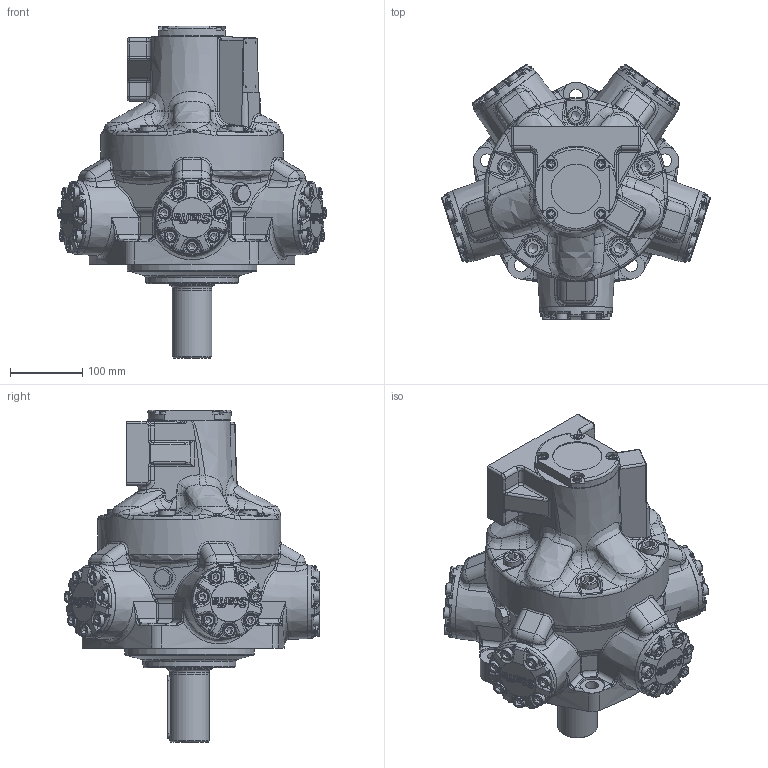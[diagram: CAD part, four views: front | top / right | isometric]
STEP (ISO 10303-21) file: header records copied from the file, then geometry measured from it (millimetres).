
FILE_DESCRIPTION(/* description */ (''),/* implementation_level */ '2;1');
FILE_NAME(/* name */ 'HMB030_P_SFM3.stp',/* time_stamp */ '2024-08-08T16:05:04+01:00',/* author */ ('ccallanga'),/* organization */ (''),/* preprocessor_version */ 'ST-DEVELOPER v20',/* originating_system */ 'Autodesk Inventor 2024',/* authorisation */ '');
FILE_SCHEMA (('AUTOMOTIVE_DESIGN { 1 0 10303 214 3 1 1 }'));
Products named in the file (1): HMB030 Web Assembly_Simplify_1
Bounding box: 373.48 x 355.32 x 460.99 mm (x, y, z)
Volume: 15314660.4 mm3; surface area: 553527 mm2
Topology: 1 solids, 1 shells, 4260 faces, 10242 edges, 5994 vertices
Faces by surface type: bspline 1848, plane 978, cylinder 834, torus 328, cone 157, sphere 115
Full cylindrical faces by diameter (mm): 2.2 x4, 8.376 x2, 9.4 x1, 10.25 x8, 11.328 x1, 11.913 x4, 12 x1, 12.7 x4, 13.614 x1, 16 x40, 16.5 x35, 17 x5, 17.78 x1, 18 x5, 23.8 x2, 23.825 x5, 25.4 x5, 31.75 x3, 32 x2, 54.996 x1, 63.474 x1, 67.564 x1, 68.58 x1, 179.934 x1, 228.613 x1, 254 x1
Entity records: 193315 total; most frequent: CARTESIAN_POINT 103483, ORIENTED_EDGE 20126, DIRECTION 13838, EDGE_CURVE 10063, VERTEX_POINT 5994, AXIS2_PLACEMENT_3D 5481, EDGE_LOOP 4461, STYLED_ITEM 4261
